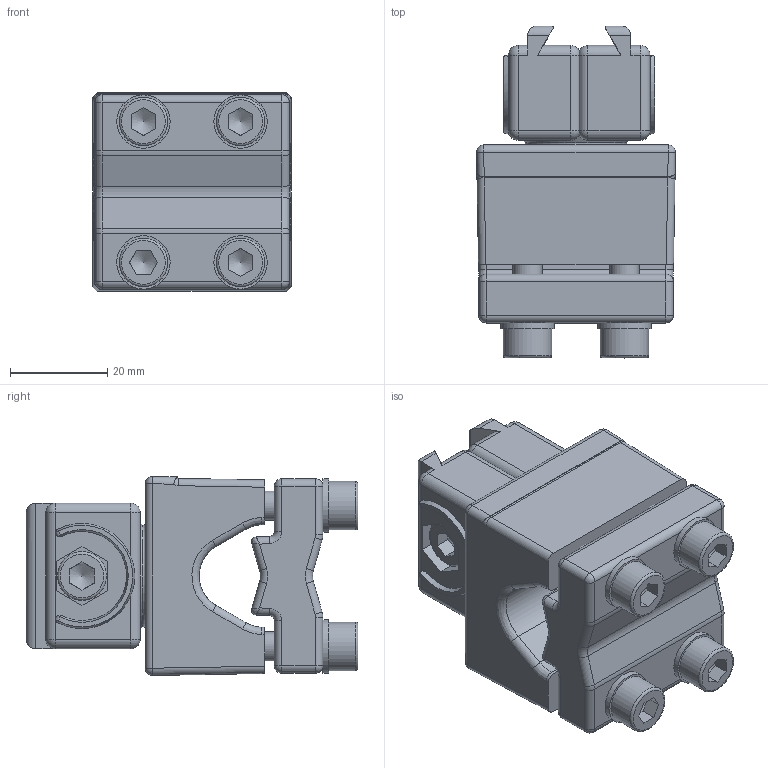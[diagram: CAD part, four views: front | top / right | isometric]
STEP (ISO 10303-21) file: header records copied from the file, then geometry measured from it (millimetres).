
FILE_DESCRIPTION(/* description */ (''),/* implementation_level */ '2;1');
FILE_NAME(/* name */ '3DCAD_BT56_1.stp',/* time_stamp */ '2020-09-16T11:50:34+02:00',/* author */ ('CC2'),/* organization */ ('Leuze electronic'),/* preprocessor_version */ 'ST-DEVELOPER v16',/* originating_system */ 'SIEMENS PLM Software NX 11.0',/* authorisation */ '');
FILE_SCHEMA (('AUTOMOTIVE_DESIGN { 1 0 10303 214 3 1 1 1 }'));
Length unit declared in the file: millimetre
Products named in the file (1): 17-108926_01_1-3DCAD_BT56_1
Bounding box: 40.96 x 68.3 x 40.96 mm (x, y, z)
Volume: 69559.6 mm3; surface area: 26710.3 mm2
Topology: 9 solids, 15 shells, 448 faces, 1058 edges, 627 vertices
Faces by surface type: plane 150, cylinder 143, cone 48, bspline 45, torus 33, sphere 28, extrusion 1
Full cylindrical faces by diameter (mm): 4.17 x4, 6 x6, 6.4 x6, 10 x5, 11 x4, 25.1 x1
Entity records: 13779 total; most frequent: CARTESIAN_POINT 4417, DIRECTION 1908, ORIENTED_EDGE 1830, EDGE_CURVE 915, AXIS2_PLACEMENT_3D 769, VERTEX_POINT 595, EDGE_LOOP 561, ADVANCED_FACE 448
